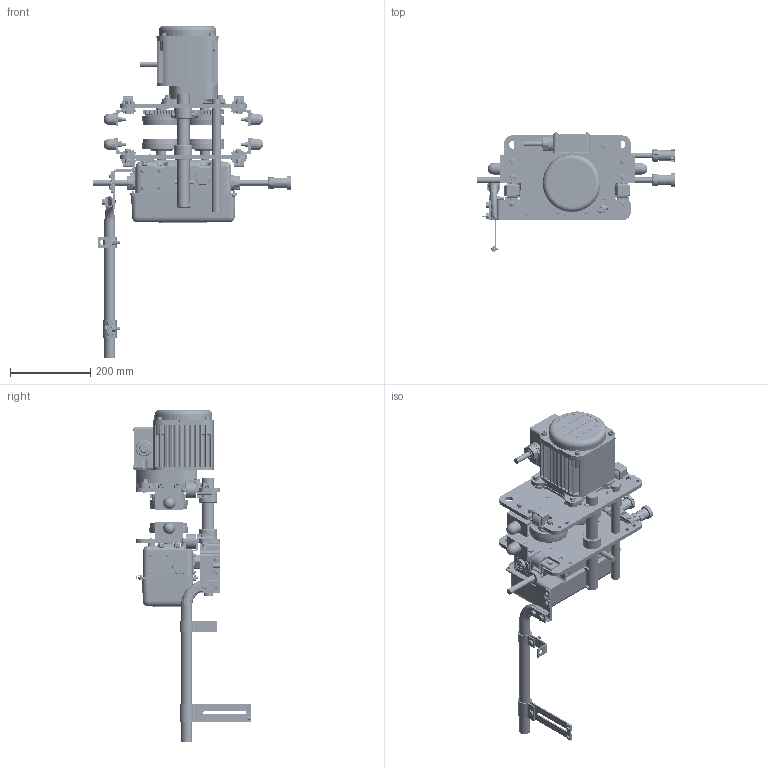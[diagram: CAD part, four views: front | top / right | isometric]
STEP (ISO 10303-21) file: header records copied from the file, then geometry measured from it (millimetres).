
FILE_DESCRIPTION (( 'STEP AP214' ), '1' );
FILE_NAME ('MR2001SD.STEP', '2026-08-10T13:16:26', ( '' ), ( '' ), 'SwSTEP 2.0', 'SolidWorks 2026', '' );
FILE_SCHEMA (( 'AUTOMOTIVE_DESIGN' ));
Length unit declared in the file: inch
Products named in the file (85): MR1DS9421; MR1DS9131_MR1DS9131; MR1DS9496; 90912134; 16-6 (MR2); MR1DS9411; ECP5924AH; split pin (metric) as_9009414-5; MR2SHM10S9A8; MR1DS9201; MR2DI1768_DEFAULT; MR1DS9492; MS551010; MR1DS9218; 9012513; MS104010; 9009446_9009446; E6F151003; 9012711_9012711; MS161010; MR2DI2811; 6302Z BEARING; 9093424_9093424; MR1DS1211_Reversed; ECP5924AD1; E6F630010S; MR1DS1493; Socket Head Cap Screw_AM_9091271; MR1DS1491; 9012712_9012712; 9047242_9047242; 60704; M6FE010S9114; 16-6P (MR2); MR1DS1211; MR1DS9401_1 - 8 TON & 10 L TON; 9047115_9047115; T6G156020; ES558003; MS527010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
Assembly tree (217 placements, depth 5):
  MR2001SD
    MR1DS5201
      MR1DS9201
      MR1DS9203  x2
      M6FE010S9113
    MR1DS5202
      MR1DS9202
      MR1DS9203  x2
      M6FE010S9114
    MSF115010_MSF115010
    MR1DS9634  x4
    9093329_9093329  x16
    9012711_9012711  x20
    9093424_9093424  x16
    MR1DS9631  x4
    MS006010  x4
    MR1DS1211_Reversed  x2
      MR1DS1211
      MR1DS9218
    MR1DS1211  x2
      MR1DS1211
      MR1DS9218
    MS1101010  x2
      M6SE010S9101
      6302Z BEARING
      9047242_9047242
    MS1102010  x2
      M6SE010S9102
      6302Z BEARING
      9047242_9047242
    MR1DS9131_MR1DS9131
    9009446_9009446  x2
    MS161010
    T6G156020
    9009432_9009432
    split pin (metric) as_9009414-5
    9047115_9047115  x4
    MS104010  x4
    6077801
      MR1DS93112
      MR1DS9324
      MR1DS9325
      MR1DS1301
      90912134  x4
      MS554010  x4
    9012513  x4
    MR1DS9248
    70131XX_For (N)ER2M (7013102)
      MR1DS9411
      MR1DS9401_1 - 8 TON & 10 L TON
      MR1DS9421
      MS554010  x12
      MR2DI2811
        ECP5924AH
        MS527010
        MR2DI1811
        ES558003  x4
      MS517010  x4
      MS551010  x4
      MR2DI1768_DEFAULT  x3
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Bounding box: 489.64 x 294.68 x 825.16 mm (x, y, z)
Volume: 5605064.7 mm3; surface area: 1882590 mm2
Topology: 253 solids, 269 shells, 12462 faces, 32751 edges, 21144 vertices
Faces by surface type: plane 5094, cylinder 3587, cone 2791, torus 502, bspline 464, sphere 24
Entity records: 171377 total; most frequent: CARTESIAN_POINT 64742, ORIENTED_EDGE 21704, DIRECTION 20662, EDGE_CURVE 10854, AXIS2_PLACEMENT_3D 7600, VERTEX_POINT 7322, VECTOR 5462, LINE 5462
